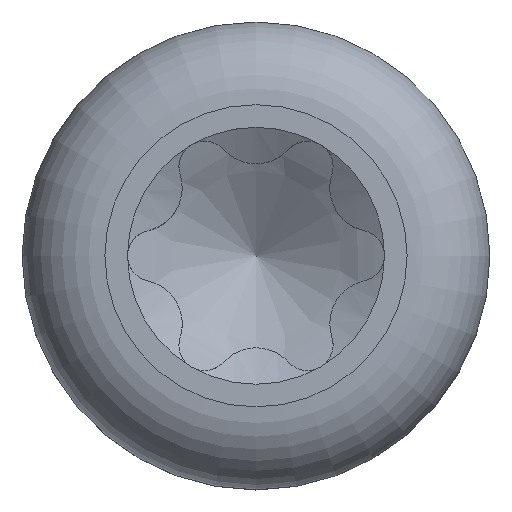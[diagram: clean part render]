
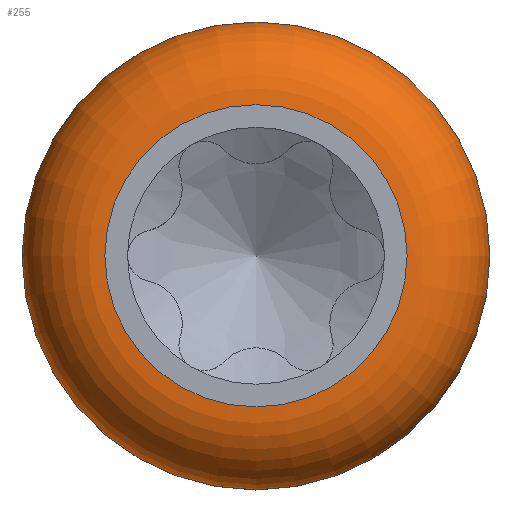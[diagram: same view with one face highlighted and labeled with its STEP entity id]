
A CAD part, top view. The second image highlights one B-rep face of the part: STEP entity #255.
In plain terms, the highlighted toroidal (fillet/blend) face has major radius 1.97 mm and minor radius 1.08 mm.
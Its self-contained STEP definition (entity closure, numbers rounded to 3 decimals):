
#215=TOROIDAL_SURFACE('',#1345,1.97,1.08);
#226=FACE_BOUND('',#437,.T.);
#227=FACE_BOUND('',#438,.T.);
#255=ADVANCED_FACE('',(#226,#227),#215,.T.);
#437=EDGE_LOOP('',(#589));
#438=EDGE_LOOP('',(#590));
#529=CIRCLE('',#1342,3.05);
#530=CIRCLE('',#1344,1.97);
#589=ORIENTED_EDGE('',*,*,#1074,.F.);
#590=ORIENTED_EDGE('',*,*,#1073,.T.);
#955=VERTEX_POINT('',#2795);
#956=VERTEX_POINT('',#2798);
#1073=EDGE_CURVE('',#955,#955,#529,.T.);
#1074=EDGE_CURVE('',#956,#956,#530,.T.);
#1342=AXIS2_PLACEMENT_3D('',#2794,#1410,#1411);
#1344=AXIS2_PLACEMENT_3D('',#2797,#1414,#1415);
#1345=AXIS2_PLACEMENT_3D('',#2799,#1416,#1417);
#1410=DIRECTION('',(0.,0.,1.));
#1411=DIRECTION('',(1.,0.,0.));
#1414=DIRECTION('',(0.,0.,1.));
#1415=DIRECTION('',(1.,0.,0.));
#1416=DIRECTION('',(0.,0.,1.));
#1417=DIRECTION('',(1.,0.,0.));
#2794=CARTESIAN_POINT('',(0.,0.,1.62));
#2795=CARTESIAN_POINT('',(3.05,0.,1.62));
#2797=CARTESIAN_POINT('',(0.,0.,2.7));
#2798=CARTESIAN_POINT('',(1.97,0.,2.7));
#2799=CARTESIAN_POINT('',(0.,0.,1.62));
